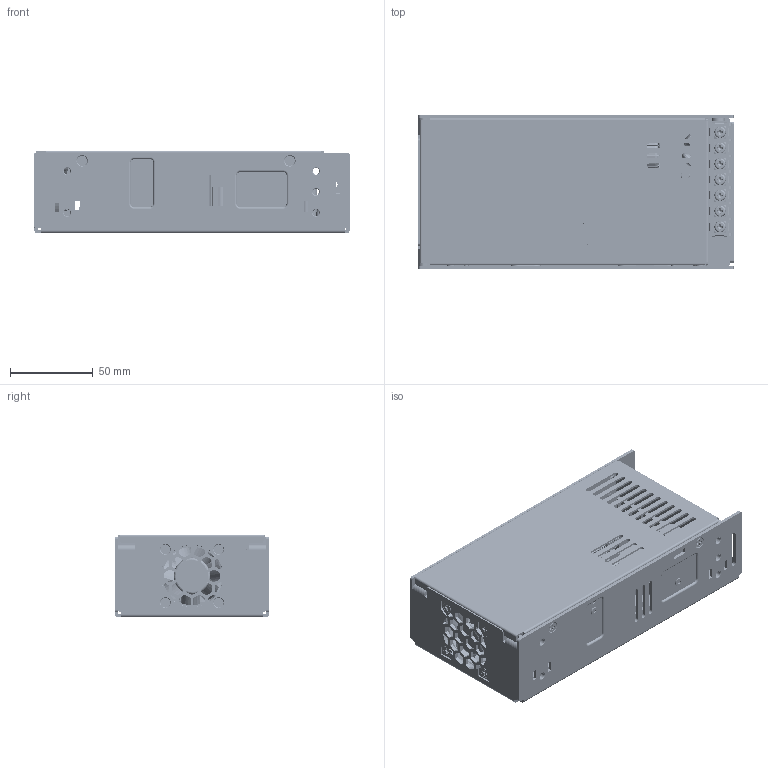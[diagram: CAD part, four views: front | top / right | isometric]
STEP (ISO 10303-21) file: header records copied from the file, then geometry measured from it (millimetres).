
FILE_DESCRIPTION((''),'2;1');
FILE_NAME('CHASSIS_ASM','2013-11-20T',('LEON.YEH'),(''),'PRO/ENGINEER BY PARAMETRIC TECHNOLOGY CORPORATION, 2010280','PRO/ENGINEER BY PARAMETRIC TECHNOLOGY CORPORATION, 2010280','');
FILE_SCHEMA(('CONFIG_CONTROL_DESIGN'));
Length unit declared in the file: millimetre
Products named in the file (48): CHASSIS_AF0; CHASSIS-STANDOFF; CHASSIS-STANDOFF-1; 3105318101-L5; PRT0011; PRT0012; PRT0013; PRT0014; PRT0015; PRT0016; PRT0017; PRT0018; T44-ES1107A302-20130510_ASM; HSK1; L_PIN_LEFT; PIN1; BD1; HSK1_ASM_ASM; VR1_; LEG1_; VR_LEG__ASM; FAN_4CM_20; CN102_TOP; FL2; FL1; FL3; IC101; CY2; PWB_FINAL; F1; C5; D101; BRACKET; Q1; BLACK_SINGLE; T1; LED_HOLDER; L2; NTC1_12_1; PRT0019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
Assembly tree (74 placements, depth 3):
  CHASSIS_ASM
    CHASSIS_AF0
    CHASSIS-STANDOFF
    CHASSIS-STANDOFF-1  x3
    3105318101-L5  x4
    T44-ES1107A302-20130510_ASM
      PRT0011
      PRT0012
      PRT0013
      PRT0014
      PRT0015
      PRT0016
      PRT0017
      PRT0018
    HSK1_ASM_ASM
      HSK1
      L_PIN_LEFT
      PIN1
      BD1
    VR_LEG__ASM
      VR1_
      LEG1_  x3
    FAN_4CM_20
    CN102_TOP
    FL2
    FL1
    FL3
    IC101
    CY2  x5
    PWB_FINAL
    F1
    C5  x2
    D101  x3
    BRACKET  x2
    Q1  x2
    BLACK_SINGLE
    T1
    LED_HOLDER
    L2
    NTC1_12_1
    PRT0019  x3
    3105320100-L8  x4
    3105319200-L10
    3105319300-L12  x2
    3105325300-L8  x4
    DIDE_TUBE_TO220  x3
    COVER-01
    INSULATOR_320_
Bounding box: 190 x 93 x 50 mm (x, y, z)
Volume: 249356.4 mm3; surface area: 268549.2 mm2
Topology: 149 solids, 149 shells, 4734 faces, 11968 edges, 7443 vertices
Faces by surface type: plane 2209, cylinder 1595, torus 532, bspline 212, cone 130, extrusion 28, revolution 20, sphere 8
Entity records: 133688 total; most frequent: CARTESIAN_POINT 40810, DIRECTION 19387, ORIENTED_EDGE 19082, EDGE_CURVE 9541, AXIS2_PLACEMENT_3D 6805, VERTEX_POINT 5933, VECTOR 5773, LINE 5745
